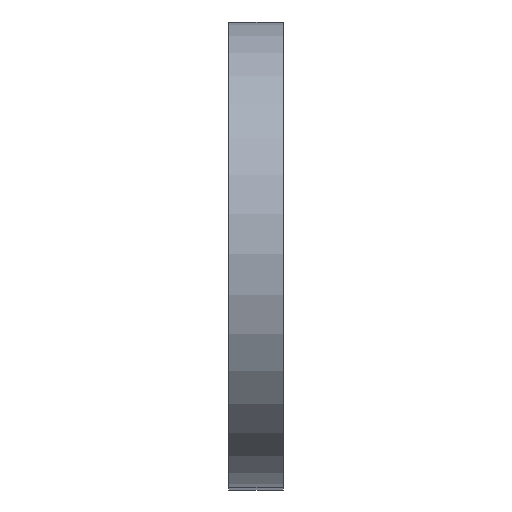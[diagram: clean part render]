
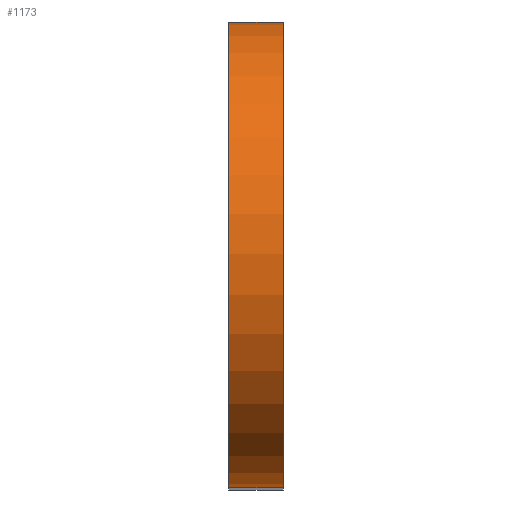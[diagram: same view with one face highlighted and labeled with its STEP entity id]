
A CAD part, top view. The second image highlights one B-rep face of the part: STEP entity #1173.
In plain terms, the highlighted cylindrical face has radius 12.7 mm (diameter 25.4 mm), a partial arc.
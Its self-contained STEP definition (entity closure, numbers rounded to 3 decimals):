
#109=FACE_OUTER_BOUND('',#168,.T.);
#168=EDGE_LOOP('',(#958,#959,#960,#961));
#287=LINE('',#1968,#400);
#288=LINE('',#1971,#401);
#400=VECTOR('',#1624,10.);
#401=VECTOR('',#1627,10.);
#467=CIRCLE('',#1300,12.7);
#468=CIRCLE('',#1301,12.7);
#572=VERTEX_POINT('',#1964);
#573=VERTEX_POINT('',#1965);
#574=VERTEX_POINT('',#1967);
#575=VERTEX_POINT('',#1969);
#736=EDGE_CURVE('',#572,#573,#467,.T.);
#737=EDGE_CURVE('',#572,#574,#287,.T.);
#738=EDGE_CURVE('',#575,#574,#468,.T.);
#739=EDGE_CURVE('',#573,#575,#288,.T.);
#958=ORIENTED_EDGE('',*,*,#736,.F.);
#959=ORIENTED_EDGE('',*,*,#737,.T.);
#960=ORIENTED_EDGE('',*,*,#738,.F.);
#961=ORIENTED_EDGE('',*,*,#739,.F.);
#1120=CYLINDRICAL_SURFACE('',#1299,12.7);
#1173=ADVANCED_FACE('',(#109),#1120,.T.);
#1299=AXIS2_PLACEMENT_3D('',#1963,#1620,#1621);
#1300=AXIS2_PLACEMENT_3D('',#1966,#1622,#1623);
#1301=AXIS2_PLACEMENT_3D('',#1970,#1625,#1626);
#1620=DIRECTION('center_axis',(-1.,0.,0.));
#1621=DIRECTION('ref_axis',(0.,1.,0.));
#1622=DIRECTION('center_axis',(1.,0.,0.));
#1623=DIRECTION('ref_axis',(0.,1.,0.));
#1624=DIRECTION('',(-1.,0.,0.));
#1625=DIRECTION('center_axis',(-1.,0.,0.));
#1626=DIRECTION('ref_axis',(0.,1.,0.));
#1627=DIRECTION('',(-1.,0.,0.));
#1963=CARTESIAN_POINT('Origin',(0.,-79.152,36.256));
#1964=CARTESIAN_POINT('',(0.,-66.452,36.256));
#1965=CARTESIAN_POINT('',(0.,-91.852,36.256));
#1966=CARTESIAN_POINT('Origin',(0.,-79.152,36.256));
#1967=CARTESIAN_POINT('',(-3.,-66.452,36.256));
#1968=CARTESIAN_POINT('',(0.,-66.452,36.256));
#1969=CARTESIAN_POINT('',(-3.,-91.852,36.256));
#1970=CARTESIAN_POINT('Origin',(-3.,-79.152,36.256));
#1971=CARTESIAN_POINT('',(0.,-91.852,36.256));
